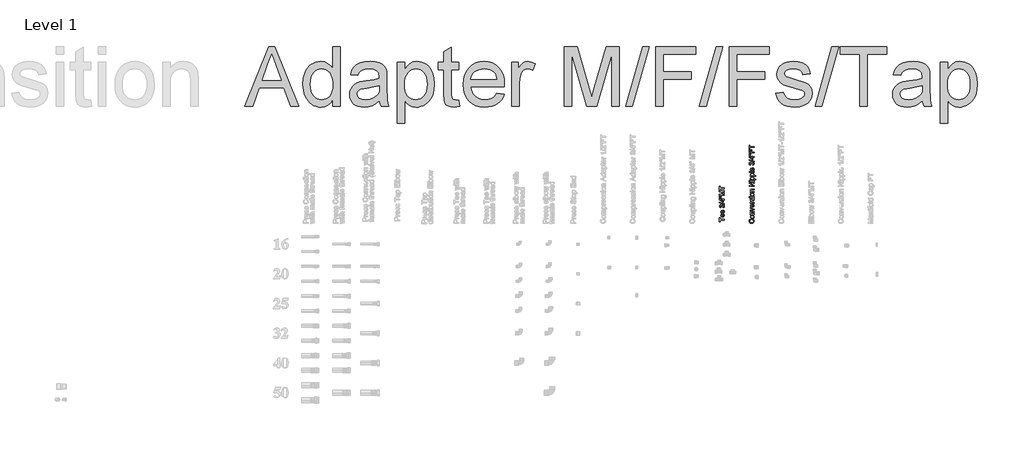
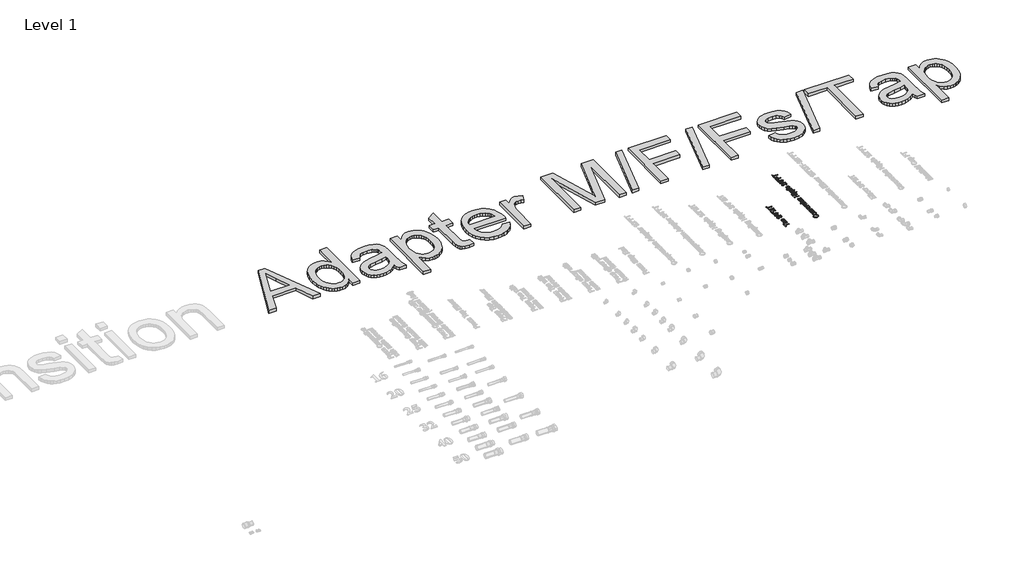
# One storey, part 55 of 57: 3 proxies.
"""IFC4 building model written with IfcOpenShell, lengths in millimetres."""

from ifc_helpers import new_model, si_unit, frame, origin, place, context, project, spatial, polyline, outline, extrude, element, save

model = new_model("IFC4")

# Units and contexts
model_context = context("Model", 3, world=origin())
ifc_project = project(units=[si_unit("LENGTHUNIT", "METRE", prefix="MILLI")], contexts=[model_context])

# Site, building, storey
site = spatial("IfcSite", under=ifc_project)
building = spatial("IfcBuilding", under=site)
storey = spatial("IfcBuildingStorey", under=building, Name="Level 1", Elevation=27.3876384)

# Proxies
placement = place(None, origin())
element("IfcBuildingElementProxy", 1, Name="50mm Arial", ObjectType="50mm Arial", at=placement, inside=storey, context=model_context, shape_type="SweptSolid", body=[
    extrude(outline(polyline([(33619.1417262, 30438.9887064), (33575.1920905, 30438.9887064), (33575.1920905, 30422.507593), (33568.9135711, 30422.507593), (33568.9135711, 30461.7483391), (33575.1920905, 30461.7483391), (33575.1920905, 30445.2672257), (33619.1417262, 30445.2672257), (33619.1417262, 30438.9887064)])), frame((0.0, 0.0, 27.3876384), z_axis=(0.0, 0.0, 1.0), x_axis=(1.0, 0.0, 0.0)), (0.0, 0.0, 1.0), 2.0),
    extrude(outline(polyline([(33608.1543173, 30493.8521746), (33608.9391322, 30500.0080666), (33617.0447988, 30494.2507134), (33619.9265411, 30483.5269532), (33614.9540028, 30470.4916679), (33601.0051438, 30465.6724137), (33586.5964323, 30470.5407188), (33581.4706099, 30483.171334), (33586.5841696, 30495.4401985), (33600.9683556, 30500.2042704), (33602.6606128, 30500.1674822), (33602.6606128, 30471.9509331), (33610.8153304, 30475.562308), (33613.6480217, 30483.6495806), (33612.3359093, 30489.8054726), (33608.1543173, 30493.8521746)]), holes=[polyline([(33596.3820934, 30471.9509331), (33596.3820934, 30493.925751), (33590.6921852, 30491.4118907), (33587.7491293, 30483.1468085), (33590.0974427, 30475.4151552), (33596.3820934, 30471.9509331)])]), frame((0.0, 0.0, 27.3876384), z_axis=(0.0, 0.0, 1.0), x_axis=(1.0, 0.0, 0.0)), (0.0, 0.0, 1.0), 2.0),
    extrude(outline(polyline([(33608.1543173, 30532.3081058), (33608.9391322, 30538.4639979), (33617.0447988, 30532.7066446), (33619.9265411, 30521.9828845), (33614.9540028, 30508.9475991), (33601.0051438, 30504.128345), (33586.5964323, 30508.99665), (33581.4706099, 30521.6272652), (33586.5841696, 30533.8961297), (33600.9683556, 30538.6602016), (33602.6606128, 30538.6234134), (33602.6606128, 30510.4068644), (33610.8153304, 30514.0182393), (33613.6480217, 30522.1055118), (33612.3359093, 30528.2614039), (33608.1543173, 30532.3081058)]), holes=[polyline([(33596.3820934, 30510.4068644), (33596.3820934, 30532.3816822), (33590.6921852, 30529.8678219), (33587.7491293, 30521.6027397), (33590.0974427, 30513.8710865), (33596.3820934, 30510.4068644)])]), frame((0.0, 0.0, 27.3876384), z_axis=(0.0, 0.0, 1.0), x_axis=(1.0, 0.0, 0.0)), (0.0, 0.0, 1.0), 2.0),
    extrude(outline(polyline([(33605.7998725, 30562.9894642), (33605.0150576, 30569.2679836), (33611.6246707, 30572.7322057), (33613.6480217, 30579.2130602), (33610.8643813, 30586.8404802), (33603.9727252, 30589.6731716), (33597.479608, 30586.8650057), (33594.9105654, 30579.728095), (33595.5972785, 30575.3257738), (33589.3187591, 30576.0247496), (33587.5897137, 30584.1549417), (33582.0469583, 30587.3187268), (33577.1357337, 30585.0255957), (33575.1920905, 30579.1149583), (33577.1541278, 30573.1307445), (33583.0402397, 30570.0527985), (33582.2554248, 30563.7742791), (33572.4084501, 30568.9123643), (33568.9135711, 30578.8942291), (33570.6364851, 30586.4664669), (33575.3453747, 30591.7639676), (33581.6790763, 30593.5972462), (33587.4670864, 30591.8559381), (33591.6241529, 30586.7055902), (33595.9161095, 30593.5481953), (33604.0830898, 30595.951691), (33615.3157534, 30591.1446996), (33619.9265411, 30578.992331), (33615.9902038, 30567.9803966), (33605.7998725, 30562.9894642)])), frame((0.0, 0.0, 27.3876384), z_axis=(0.0, 0.0, 1.0), x_axis=(1.0, 0.0, 0.0)), (0.0, 0.0, 1.0), 2.0),
    extrude(outline(polyline([(33619.1417262, 30598.3061357), (33568.9135711, 30612.4328043), (33568.9135711, 30618.0981871), (33619.1417262, 30603.9715185), (33619.1417262, 30598.3061357)])), frame((0.0, 0.0, 27.3876384), z_axis=(0.0, 0.0, 1.0), x_axis=(1.0, 0.0, 0.0)), (0.0, 0.0, 1.0), 2.0),
    extrude(outline(polyline([(33619.1417262, 30641.4709565), (33607.3695023, 30641.4709565), (33607.3695023, 30618.7113237), (33601.0909829, 30618.7113237), (33569.698386, 30643.0405863), (33569.698386, 30647.7494759), (33601.0909829, 30647.7494759), (33601.0909829, 30654.0279953), (33607.3695023, 30654.0279953), (33607.3695023, 30647.7494759), (33619.1417262, 30647.7494759), (33619.1417262, 30641.4709565)]), holes=[polyline([(33601.0909829, 30641.4709565), (33581.6913391, 30641.4709565), (33601.0909829, 30626.4368456), (33601.0909829, 30641.4709565)])]), frame((0.0, 0.0, 27.3876384), z_axis=(0.0, 0.0, 1.0), x_axis=(1.0, 0.0, 0.0)), (0.0, 0.0, 1.0), 2.0),
    extrude(outline(polyline([(33586.9643143, 30661.0545414), (33577.2644924, 30659.5216997), (33568.9135711, 30659.5216997), (33568.9135711, 30665.8002191), (33577.2644924, 30665.8002191), (33586.9643143, 30664.426793), (33586.9643143, 30661.0545414)])), frame((0.0, 0.0, 27.3876384), z_axis=(0.0, 0.0, 1.0), x_axis=(1.0, 0.0, 0.0)), (0.0, 0.0, 1.0), 2.0),
    extrude(outline(polyline([(33586.9643143, 30673.5747919), (33577.2644924, 30672.0787385), (33568.9135711, 30672.0787385), (33568.9135711, 30678.3572579), (33577.2644924, 30678.3572579), (33586.9643143, 30676.8857299), (33586.9643143, 30673.5747919)])), frame((0.0, 0.0, 27.3876384), z_axis=(0.0, 0.0, 1.0), x_axis=(1.0, 0.0, 0.0)), (0.0, 0.0, 1.0), 2.0),
    extrude(outline(polyline([(33619.1417262, 30686.990222), (33568.9135711, 30686.990222), (33568.9135711, 30697.79369), (33604.3160818, 30708.0698604), (33611.7105099, 30710.1422623), (33603.7029451, 30712.3863424), (33568.9135711, 30722.4908346), (33568.9135711, 30733.2943025), (33619.1417262, 30733.2943025), (33619.1417262, 30727.0157831), (33575.1920905, 30727.0157831), (33619.1417262, 30714.3974307), (33619.1417262, 30705.8870939), (33575.1920905, 30693.2687414), (33619.1417262, 30693.2687414), (33619.1417262, 30686.990222)])), frame((0.0, 0.0, 27.3876384), z_axis=(0.0, 0.0, 1.0), x_axis=(1.0, 0.0, 0.0)), (0.0, 0.0, 1.0), 2.0),
    extrude(outline(polyline([(33619.1417262, 30756.8387502), (33575.1920905, 30756.8387502), (33575.1920905, 30740.3576368), (33568.9135711, 30740.3576368), (33568.9135711, 30779.598383), (33575.1920905, 30779.598383), (33575.1920905, 30763.1172696), (33619.1417262, 30763.1172696), (33619.1417262, 30756.8387502)])), frame((0.0, 0.0, 27.3876384), z_axis=(0.0, 0.0, 1.0), x_axis=(1.0, 0.0, 0.0)), (0.0, 0.0, 1.0), 2.0),
])
element("IfcBuildingElementProxy", 2, Name="50mm Arial", ObjectType="50mm Arial", at=placement, inside=storey, context=model_context, shape_type="SweptSolid", body=[
    extrude(outline(polyline([(33901.2871867, 30442.127966), (33902.9058675, 30448.4064854), (33915.5671395, 30440.9630064), (33919.9265411, 30427.8173564), (33916.6278659, 30414.7514142), (33907.0751967, 30407.087206), (33893.6475039, 30404.4568497), (33879.9990819, 30407.4305625), (33871.1515199, 30415.8857171), (33868.1287562, 30427.9522465), (33872.0405681, 30440.5276794), (33883.0525025, 30447.6216705), (33884.5485559, 30441.3431511), (33876.8291654, 30436.1928032), (33874.4072756, 30427.7069918), (33877.0928141, 30417.8845426), (33884.3033012, 30412.3356558), (33893.6352412, 30410.7353691), (33904.4509718, 30412.6299614), (33911.361022, 30418.5283361), (33913.6480217, 30427.191957), (33910.5332875, 30436.7998085), (33901.2871867, 30442.127966)])), frame((0.0, 0.0, 27.3876384), z_axis=(0.0, 0.0, 1.0), x_axis=(1.0, 0.0, 0.0)), (0.0, 0.0, 1.0), 2.0),
    extrude(outline(polyline([(33900.6985755, 30454.6850048), (33891.8050283, 30456.0431025), (33885.5541, 30460.1173956), (33881.4706099, 30471.1783809), (33886.4431482, 30483.0425753), (33900.1835407, 30487.6472316), (33911.3548906, 30485.6116179), (33917.6763296, 30479.6825864), (33919.9265411, 30471.1783809), (33914.9723969, 30459.2406102), (33900.6985755, 30454.6850048)]), holes=[polyline([(33900.6863128, 30460.9635242), (33910.4167915, 30463.869792), (33913.6480217, 30471.1783809), (33910.3983974, 30478.4624444), (33900.490109, 30481.3687122), (33890.9803594, 30478.4440503), (33887.7491293, 30471.1783809), (33890.9680967, 30463.869792), (33900.6863128, 30460.9635242)])]), frame((0.0, 0.0, 27.3876384), z_axis=(0.0, 0.0, 1.0), x_axis=(1.0, 0.0, 0.0)), (0.0, 0.0, 1.0), 2.0),
    extrude(outline(polyline([(33919.1417262, 30494.7105659), (33882.2554248, 30494.7105659), (33882.2554248, 30500.9890853), (33887.4057727, 30500.9890853), (33882.9544006, 30505.7899453), (33881.4706099, 30512.3443762), (33882.6662264, 30518.2734077), (33885.805486, 30522.3201096), (33890.4224051, 30524.2024392), (33896.492458, 30524.533533), (33919.1417262, 30524.533533), (33919.1417262, 30518.2550136), (33897.3385866, 30518.2550136), (33891.7835685, 30517.5315123), (33888.8466439, 30514.9747325), (33887.7491293, 30510.6643817), (33890.2139386, 30503.8524335), (33899.570404, 30500.9890853), (33919.1417262, 30500.9890853), (33919.1417262, 30494.7105659)])), frame((0.0, 0.0, 27.3876384), z_axis=(0.0, 0.0, 1.0), x_axis=(1.0, 0.0, 0.0)), (0.0, 0.0, 1.0), 2.0),
    extrude(outline(polyline([(33919.1417262, 30542.2163942), (33882.2554248, 30529.2424225), (33882.2554248, 30535.8888239), (33904.35287, 30543.7492358), (33911.7840863, 30546.1159433), (33904.7698029, 30548.4335999), (33882.2554248, 30556.3430628), (33882.2554248, 30562.9894642), (33919.1417262, 30550.174908), (33919.1417262, 30542.2163942)])), frame((0.0, 0.0, 27.3876384), z_axis=(0.0, 0.0, 1.0), x_axis=(1.0, 0.0, 0.0)), (0.0, 0.0, 1.0), 2.0),
    extrude(outline(polyline([(33908.1543173, 30594.3084847), (33908.9391322, 30600.4643768), (33917.0447988, 30594.7070235), (33919.9265411, 30583.9832634), (33914.9540028, 30570.947978), (33901.0051438, 30566.1287239), (33886.5964323, 30570.997029), (33881.4706099, 30583.6276441), (33886.5841696, 30595.8965087), (33900.9683556, 30600.6605805), (33902.6606128, 30600.6237923), (33902.6606128, 30572.4072433), (33910.8153304, 30576.0186182), (33913.6480217, 30584.1058907), (33912.3359093, 30590.2617828), (33908.1543173, 30594.3084847)]), holes=[polyline([(33896.3820934, 30572.4072433), (33896.3820934, 30594.3820611), (33890.6921852, 30591.8682008), (33887.7491293, 30583.6031187), (33890.0974427, 30575.8714654), (33896.3820934, 30572.4072433)])]), frame((0.0, 0.0, 27.3876384), z_axis=(0.0, 0.0, 1.0), x_axis=(1.0, 0.0, 0.0)), (0.0, 0.0, 1.0), 2.0),
    extrude(outline(polyline([(33919.1417262, 30606.9390999), (33882.2554248, 30606.9390999), (33882.2554248, 30612.4328043), (33887.7123411, 30612.4328043), (33882.6846205, 30616.3323535), (33881.4706099, 30620.2564281), (33883.4081217, 30626.559473), (33889.0367162, 30624.4625456), (33887.7491293, 30620.0479616), (33888.9876653, 30616.4979004), (33892.4212306, 30614.2354261), (33899.754345, 30613.2176193), (33919.1417262, 30613.2176193), (33919.1417262, 30606.9390999)])), frame((0.0, 0.0, 27.3876384), z_axis=(0.0, 0.0, 1.0), x_axis=(1.0, 0.0, 0.0)), (0.0, 0.0, 1.0), 2.0),
    extrude(outline(polyline([(33908.1543173, 30628.1291028), (33907.3695023, 30634.4076222), (33912.0293409, 30637.31389), (33913.6480217, 30643.9725541), (33912.164231, 30650.3737008), (33908.6816148, 30652.4583654), (33905.8611862, 30650.361438), (33904.0708271, 30643.8989777), (33900.9990124, 30634.4444104), (33897.412163, 30630.3180007), (33892.3476542, 30628.9139177), (33887.6694215, 30630.0420892), (33884.0948348, 30633.1200352), (33882.2370307, 30637.1115549), (33881.4706099, 30642.5132888), (33882.7030146, 30650.1529716), (33886.038478, 30655.0090139), (33891.6732039, 30657.167255), (33892.4580188, 30650.8887356), (33888.9937967, 30648.5281594), (33887.7491293, 30643.0037981), (33888.9386144, 30636.9950589), (33891.7099921, 30635.1924371), (33893.5371393, 30635.9404638), (33894.9228282, 30638.2826459), (33896.2594661, 30643.6905112), (33899.2147848, 30652.9059552), (33902.5625109, 30657.1856491), (33908.0194272, 30658.7368848), (33914.0281664, 30656.9158689), (33918.3875681, 30651.6612878), (33919.9265411, 30643.8867149), (33916.9589597, 30632.9360942), (33908.1543173, 30628.1291028)])), frame((0.0, 0.0, 27.3876384), z_axis=(0.0, 0.0, 1.0), x_axis=(1.0, 0.0, 0.0)), (0.0, 0.0, 1.0), 2.0),
    extrude(outline(polyline([(33919.1417262, 30665.8002191), (33882.2554248, 30665.8002191), (33882.2554248, 30672.0787385), (33919.1417262, 30672.0787385), (33919.1417262, 30665.8002191)])), frame((0.0, 0.0, 27.3876384), z_axis=(0.0, 0.0, 1.0), x_axis=(1.0, 0.0, 0.0)), (0.0, 0.0, 1.0), 2.0),
    extrude(outline(polyline([(33875.1920905, 30665.8002191), (33868.9135711, 30665.8002191), (33868.9135711, 30672.0787385), (33875.1920905, 30672.0787385), (33875.1920905, 30665.8002191)])), frame((0.0, 0.0, 27.3876384), z_axis=(0.0, 0.0, 1.0), x_axis=(1.0, 0.0, 0.0)), (0.0, 0.0, 1.0), 2.0),
    extrude(outline(polyline([(33900.6985755, 30679.9268877), (33891.8050283, 30681.2849854), (33885.5541, 30685.3592785), (33881.4706099, 30696.4202638), (33886.4431482, 30708.2844582), (33900.1835407, 30712.8891145), (33911.3548906, 30710.8535008), (33917.6763296, 30704.9244693), (33919.9265411, 30696.4202638), (33914.9723969, 30684.4824931), (33900.6985755, 30679.9268877)]), holes=[polyline([(33900.6863128, 30686.2054071), (33910.4167915, 30689.1116749), (33913.6480217, 30696.4202638), (33910.3983974, 30703.7043274), (33900.490109, 30706.6105951), (33890.9803594, 30703.6859333), (33887.7491293, 30696.4202638), (33890.9680967, 30689.1116749), (33900.6863128, 30686.2054071)])]), frame((0.0, 0.0, 27.3876384), z_axis=(0.0, 0.0, 1.0), x_axis=(1.0, 0.0, 0.0)), (0.0, 0.0, 1.0), 2.0),
    extrude(outline(polyline([(33919.1417262, 30719.9524488), (33882.2554248, 30719.9524488), (33882.2554248, 30726.2309682), (33887.4057727, 30726.2309682), (33882.9544006, 30731.0318282), (33881.4706099, 30737.5862591), (33882.6662264, 30743.5152906), (33885.805486, 30747.5619925), (33890.4224051, 30749.4443221), (33896.492458, 30749.7754159), (33919.1417262, 30749.7754159), (33919.1417262, 30743.4968965), (33897.3385866, 30743.4968965), (33891.7835685, 30742.7733952), (33888.8466439, 30740.2166154), (33887.7491293, 30735.9062647), (33890.2139386, 30729.0943164), (33899.570404, 30726.2309682), (33919.1417262, 30726.2309682), (33919.1417262, 30719.9524488)])), frame((0.0, 0.0, 27.3876384), z_axis=(0.0, 0.0, 1.0), x_axis=(1.0, 0.0, 0.0)), (0.0, 0.0, 1.0), 2.0),
    extrude(outline(polyline([(33919.1417262, 30778.813568), (33868.9135711, 30778.813568), (33868.9135711, 30785.5335458), (33908.7061402, 30811.7757948), (33868.9135711, 30811.7757948), (33868.9135711, 30818.0543142), (33919.1417262, 30818.0543142), (33919.1417262, 30811.3343364), (33879.3368943, 30785.0920874), (33919.1417262, 30785.0920874), (33919.1417262, 30778.813568)])), frame((0.0, 0.0, 27.3876384), z_axis=(0.0, 0.0, 1.0), x_axis=(1.0, 0.0, 0.0)), (0.0, 0.0, 1.0), 2.0),
    extrude(outline(polyline([(33919.1417262, 30828.2569082), (33882.2554248, 30828.2569082), (33882.2554248, 30834.5354276), (33919.1417262, 30834.5354276), (33919.1417262, 30828.2569082)])), frame((0.0, 0.0, 27.3876384), z_axis=(0.0, 0.0, 1.0), x_axis=(1.0, 0.0, 0.0)), (0.0, 0.0, 1.0), 2.0),
    extrude(outline(polyline([(33875.1920905, 30828.2569082), (33868.9135711, 30828.2569082), (33868.9135711, 30834.5354276), (33875.1920905, 30834.5354276), (33875.1920905, 30828.2569082)])), frame((0.0, 0.0, 27.3876384), z_axis=(0.0, 0.0, 1.0), x_axis=(1.0, 0.0, 0.0)), (0.0, 0.0, 1.0), 2.0),
    extrude(outline(polyline([(33933.2683948, 30843.9532066), (33882.2554248, 30843.9532066), (33882.2554248, 30850.231726), (33888.4113168, 30850.231726), (33883.2057866, 30854.5727336), (33881.4706099, 30860.43432), (33883.898631, 30868.3928339), (33890.7412362, 30873.5922327), (33900.4165326, 30875.3458036), (33910.5884698, 30873.3653722), (33917.516914, 30867.6141503), (33919.9265411, 30859.6740306), (33918.3139917, 30854.2109829), (33914.2366329, 30850.231726), (33933.2683948, 30850.231726), (33933.2683948, 30843.9532066)]), holes=[polyline([(33900.9928811, 30850.231726), (33910.557813, 30852.9479214), (33913.6480217, 30859.5391405), (33910.4474484, 30866.2652497), (33900.5268972, 30869.0672842), (33890.9374399, 30866.3326947), (33887.7491293, 30859.7966579), (33891.139775, 30853.1318624), (33900.9928811, 30850.231726)])]), frame((0.0, 0.0, 27.3876384), z_axis=(0.0, 0.0, 1.0), x_axis=(1.0, 0.0, 0.0)), (0.0, 0.0, 1.0), 2.0),
    extrude(outline(polyline([(33933.2683948, 30882.4091379), (33882.2554248, 30882.4091379), (33882.2554248, 30888.6876573), (33888.4113168, 30888.6876573), (33883.2057866, 30893.0286648), (33881.4706099, 30898.8902513), (33883.898631, 30906.8487651), (33890.7412362, 30912.048164), (33900.4165326, 30913.8017348), (33910.5884698, 30911.8213034), (33917.516914, 30906.0700815), (33919.9265411, 30898.1299618), (33918.3139917, 30892.6669142), (33914.2366329, 30888.6876573), (33933.2683948, 30888.6876573), (33933.2683948, 30882.4091379)]), holes=[polyline([(33900.9928811, 30888.6876573), (33910.557813, 30891.4038527), (33913.6480217, 30897.9950717), (33910.4474484, 30904.7211809), (33900.5268972, 30907.5232154), (33890.9374399, 30904.7886259), (33887.7491293, 30898.2525891), (33891.139775, 30891.5877937), (33900.9928811, 30888.6876573)])]), frame((0.0, 0.0, 27.3876384), z_axis=(0.0, 0.0, 1.0), x_axis=(1.0, 0.0, 0.0)), (0.0, 0.0, 1.0), 2.0),
    extrude(outline(polyline([(33919.1417262, 30920.8650691), (33868.9135711, 30920.8650691), (33868.9135711, 30927.1435885), (33919.1417262, 30927.1435885), (33919.1417262, 30920.8650691)])), frame((0.0, 0.0, 27.3876384), z_axis=(0.0, 0.0, 1.0), x_axis=(1.0, 0.0, 0.0)), (0.0, 0.0, 1.0), 2.0),
    extrude(outline(polyline([(33908.1543173, 30962.3866836), (33908.9391322, 30968.5425757), (33917.0447988, 30962.7852225), (33919.9265411, 30952.0614623), (33914.9540028, 30939.0261769), (33901.0051438, 30934.2069228), (33886.5964323, 30939.0752279), (33881.4706099, 30951.705843), (33886.5841696, 30963.9747076), (33900.9683556, 30968.7387794), (33902.6606128, 30968.7019912), (33902.6606128, 30940.4854422), (33910.8153304, 30944.0968171), (33913.6480217, 30952.1840896), (33912.3359093, 30958.3399817), (33908.1543173, 30962.3866836)]), holes=[polyline([(33896.3820934, 30940.4854422), (33896.3820934, 30962.46026), (33890.6921852, 30959.9463997), (33887.7491293, 30951.6813176), (33890.0974427, 30943.9496643), (33896.3820934, 30940.4854422)])]), frame((0.0, 0.0, 27.3876384), z_axis=(0.0, 0.0, 1.0), x_axis=(1.0, 0.0, 0.0)), (0.0, 0.0, 1.0), 2.0),
    extrude(outline(polyline([(33905.7998725, 30993.068042), (33905.0150576, 30999.3465614), (33911.6246707, 31002.8107835), (33913.6480217, 31009.291638), (33910.8643813, 31016.919058), (33903.9727252, 31019.7517494), (33897.479608, 31016.9435835), (33894.9105654, 31009.8066728), (33895.5972785, 31005.4043516), (33889.3187591, 31006.1033274), (33887.5897137, 31014.2335195), (33882.0469583, 31017.3973046), (33877.1357337, 31015.1041735), (33875.1920905, 31009.1935361), (33877.1541278, 31003.2093224), (33883.0402397, 31000.1313763), (33882.2554248, 30993.8528569), (33872.4084501, 30998.9909421), (33868.9135711, 31008.9728069), (33870.6364851, 31016.5450447), (33875.3453747, 31021.8425454), (33881.6790763, 31023.675824), (33887.4670864, 31021.9345159), (33891.6241529, 31016.784168), (33895.9161095, 31023.6267731), (33904.0830898, 31026.0302688), (33915.3157534, 31021.2232774), (33919.9265411, 31009.0709088), (33915.9902038, 30998.0589744), (33905.7998725, 30993.068042)])), frame((0.0, 0.0, 27.3876384), z_axis=(0.0, 0.0, 1.0), x_axis=(1.0, 0.0, 0.0)), (0.0, 0.0, 1.0), 2.0),
    extrude(outline(polyline([(33919.1417262, 31028.3847136), (33868.9135711, 31042.5113822), (33868.9135711, 31048.1767649), (33919.1417262, 31034.0500963), (33919.1417262, 31028.3847136)])), frame((0.0, 0.0, 27.3876384), z_axis=(0.0, 0.0, 1.0), x_axis=(1.0, 0.0, 0.0)), (0.0, 0.0, 1.0), 2.0),
    extrude(outline(polyline([(33919.1417262, 31071.5495343), (33907.3695023, 31071.5495343), (33907.3695023, 31048.7899016), (33901.0909829, 31048.7899016), (33869.698386, 31073.1191642), (33869.698386, 31077.8280537), (33901.0909829, 31077.8280537), (33901.0909829, 31084.1065731), (33907.3695023, 31084.1065731), (33907.3695023, 31077.8280537), (33919.1417262, 31077.8280537), (33919.1417262, 31071.5495343)]), holes=[polyline([(33901.0909829, 31071.5495343), (33881.6913391, 31071.5495343), (33901.0909829, 31056.5154235), (33901.0909829, 31071.5495343)])]), frame((0.0, 0.0, 27.3876384), z_axis=(0.0, 0.0, 1.0), x_axis=(1.0, 0.0, 0.0)), (0.0, 0.0, 1.0), 2.0),
    extrude(outline(polyline([(33886.9643143, 31103.6533698), (33877.2644924, 31102.1573163), (33868.9135711, 31102.1573163), (33868.9135711, 31108.4358357), (33877.2644924, 31108.4358357), (33886.9643143, 31106.9643077), (33886.9643143, 31103.6533698)])), frame((0.0, 0.0, 27.3876384), z_axis=(0.0, 0.0, 1.0), x_axis=(1.0, 0.0, 0.0)), (0.0, 0.0, 1.0), 2.0),
    extrude(outline(polyline([(33886.9643143, 31091.1331192), (33877.2644924, 31089.6002776), (33868.9135711, 31089.6002776), (33868.9135711, 31095.8787969), (33877.2644924, 31095.8787969), (33886.9643143, 31094.5053708), (33886.9643143, 31091.1331192)])), frame((0.0, 0.0, 27.3876384), z_axis=(0.0, 0.0, 1.0), x_axis=(1.0, 0.0, 0.0)), (0.0, 0.0, 1.0), 2.0),
    extrude(outline(polyline([(33919.1417262, 31117.0687999), (33868.9135711, 31117.0687999), (33868.9135711, 31150.8158416), (33875.1920905, 31150.8158416), (33875.1920905, 31123.3473192), (33890.103574, 31123.3473192), (33890.103574, 31146.8917669), (33896.3820934, 31146.8917669), (33896.3820934, 31123.3473192), (33919.1417262, 31123.3473192), (33919.1417262, 31117.0687999)])), frame((0.0, 0.0, 27.3876384), z_axis=(0.0, 0.0, 1.0), x_axis=(1.0, 0.0, 0.0)), (0.0, 0.0, 1.0), 2.0),
    extrude(outline(polyline([(33919.1417262, 31172.0058445), (33875.1920905, 31172.0058445), (33875.1920905, 31155.5247311), (33868.9135711, 31155.5247311), (33868.9135711, 31194.7654772), (33875.1920905, 31194.7654772), (33875.1920905, 31178.2843639), (33919.1417262, 31178.2843639), (33919.1417262, 31172.0058445)])), frame((0.0, 0.0, 27.3876384), z_axis=(0.0, 0.0, 1.0), x_axis=(1.0, 0.0, 0.0)), (0.0, 0.0, 1.0), 2.0),
])
element("IfcBuildingElementProxy", 3, Name="600mm Arial", ObjectType="600mm Arial", at=placement, inside=storey, context=model_context, shape_type="SweptSolid", body=[
    extrude(outline(polyline([(28776.5509061, 31587.8685592), (29017.145731, 32190.6064201), (29081.3043509, 32190.6064201), (29321.8991758, 31587.8685592), (29242.289512, 31587.8685592), (29173.2748497, 31776.2241407), (28925.0280794, 31776.2241407), (28856.1605699, 31587.8685592), (28776.5509061, 31587.8685592)]), holes=[polyline([(28952.6928054, 31851.5663733), (29145.7572765, 31851.5663733), (29091.457894, 31999.749241), (29049.2250409, 32115.2641875), (29011.7010774, 32012.6986872), (28952.6928054, 31851.5663733)])]), frame((0.0, 0.0, 27.3876384), z_axis=(0.0, 0.0, 1.0), x_axis=(1.0, 0.0, 0.0)), (0.0, 0.0, 1.0), 30.0),
    extrude(outline(polyline([(29666.0895704, 31587.8685592), (29666.0895704, 31658.9433607), (29643.5476012, 31623.7278567), (29616.2415601, 31598.5739253), (29584.1714472, 31583.4815664), (29547.3372624, 31578.4507801), (29522.4684395, 31580.271796), (29498.6296862, 31585.7348436), (29475.8210025, 31594.839923), (29454.0423884, 31607.5870341), (29433.9744256, 31623.5944994), (29416.2976957, 31642.4806414), (29401.0121988, 31664.2454599), (29388.1179349, 31688.8889551), (29377.8816184, 31715.9420773), (29370.5699637, 31744.935777), (29364.72064, 31808.7449091), (29370.1101112, 31871.7630949), (29386.2785249, 31928.6744395), (29398.4002367, 31954.030706), (29413.207487, 31976.2415815), (29430.7002758, 31995.3070659), (29450.8786033, 32011.2271592), (29473.0296979, 32023.7811323), (29496.4407884, 32032.748256), (29521.1118747, 32038.1285301), (29547.0429568, 32039.9219549), (29583.9047327, 32034.790001), (29616.4990775, 32019.3941395), (29644.1270153, 31995.7945095), (29666.0895704, 31966.0512502), (29666.0895704, 32190.6064201), (29741.4318031, 32190.6064201), (29741.4318031, 31587.8685592), (29666.0895704, 31587.8685592)]), holes=[polyline([(29440.0628726, 31809.0392147), (29442.1873911, 31772.503934), (29448.5609467, 31740.8890751), (29459.1835393, 31714.1946378), (29474.055169, 31692.4206222), (29491.8146723, 31675.5210431), (29511.1008859, 31663.4499151), (29531.9138098, 31656.2072383), (29554.2534439, 31653.7930127), (29576.6988441, 31656.0968737), (29597.3876078, 31663.0084567), (29616.319735, 31674.5277617), (29633.4952257, 31690.6547886), (29647.7552515, 31711.5182963), (29657.9409843, 31737.2470433), (29664.0524239, 31767.8410298), (29666.0895704, 31803.3002556), (29664.0156357, 31842.1761854), (29657.7938315, 31875.5154912), (29647.4241577, 31903.318173), (29632.9066145, 31925.5842308), (29615.3540448, 31942.6447583), (29595.8792917, 31954.8308494), (29574.4823551, 31962.142504), (29551.1632352, 31964.5797223), (29528.3821426, 31962.2390731), (29507.5692187, 31955.2171255), (29488.7244635, 31943.5138795), (29471.847877, 31927.1293351), (29457.9419376, 31905.7048075), (29448.0091237, 31878.8816115), (29442.0494354, 31846.6597472), (29440.0628726, 31809.0392147)])]), frame((0.0, 0.0, 27.3876384), z_axis=(0.0, 0.0, 1.0), x_axis=(1.0, 0.0, 0.0)), (0.0, 0.0, 1.0), 30.0),
    extrude(outline(polyline([(30136.9785243, 31644.3752337), (30100.981271, 31613.5099343), (30063.91716, 31593.3132127), (30024.9400626, 31582.1663883), (29983.2038503, 31578.4507801), (29949.6576109, 31580.6856632), (29920.2408468, 31587.3903126), (29894.9535582, 31598.5647282), (29873.7957449, 31614.20891), (29857.0893038, 31633.3295767), (29845.1561316, 31654.9334469), (29837.9962283, 31679.0205205), (29835.6095938, 31705.5907976), (29839.2148374, 31736.823979), (29850.030568, 31765.1876809), (29866.7140165, 31789.4678925), (29887.9224135, 31808.4506035), (29912.8464187, 31822.7980013), (29940.6766916, 31833.1722736), (30005.8653812, 31844.503039), (30082.899871, 31856.4224157), (30136.5370659, 31870.4019315), (30136.9785243, 31887.1773505), (30131.7913881, 31920.8017648), (30125.307468, 31933.2545704), (30116.2299797, 31942.8011081), (30100.5398126, 31952.3292518), (30081.428343, 31959.1350687), (30032.941496, 31964.5797223), (29988.0598926, 31960.9560846), (29956.7163466, 31950.0851716), (29935.3424027, 31929.9804206), (29920.3696055, 31898.6552687), (29845.0273729, 31908.0730478), (29858.1055778, 31949.2758313), (29877.6217177, 31981.6494468), (29905.3968083, 32006.4079051), (29943.2518656, 32024.7652167), (29989.5498147, 32036.1327703), (30042.6535807, 32039.9219549), (30093.5868429, 32036.5742287), (30133.9618919, 32026.5310502), (30164.404127, 32011.4294943), (30185.5389476, 31992.9066359), (30199.5552516, 31970.0059817), (30208.6419369, 31941.7710386), (30212.3207569, 31875.846585), (30212.3207569, 31782.1102526), (30216.1467296, 31651.2178388), (30221.8121124, 31618.8626173), (30231.156315, 31587.8685592), (30155.8140824, 31587.8685592), (30143.747553, 31614.0617572), (30136.9785243, 31644.3752337)]), holes=[polyline([(30136.9785243, 31795.0596989), (30086.3579617, 31782.5149228), (30015.4303131, 31771.9567096), (29950.6095055, 31759.7430273), (29933.742116, 31751.392106), (29921.2525223, 31739.8773996), (29913.5270004, 31726.0818248), (29910.9518264, 31710.8882984), (29916.5620269, 31688.4842849), (29933.3926281, 31670.1269733), (29961.0757483, 31657.8765029), (29999.2435053, 31653.7930127), (30039.7105247, 31658.2995672), (30075.4686547, 31671.8192305), (30104.4577559, 31691.7400405), (30124.6176892, 31715.4500351), (30133.5572217, 31739.8773996), (30136.5370659, 31773.7225432), (30136.9785243, 31795.0596989)])]), frame((0.0, 0.0, 27.3876384), z_axis=(0.0, 0.0, 1.0), x_axis=(1.0, 0.0, 0.0)), (0.0, 0.0, 1.0), 30.0),
    extrude(outline(polyline([(30315.9163267, 31418.3485358), (30315.9163267, 32030.5041758), (30391.2585593, 32030.5041758), (30391.2585593, 31956.6334712), (30415.8330766, 31993.0721828), (30443.3506499, 32019.0998339), (30475.4299598, 32034.7164246), (30513.6896873, 32039.9219549), (30539.9656588, 32038.100939), (30564.6413437, 32032.6378914), (30587.7167418, 32023.532812), (30609.1918533, 32010.7857008), (30628.5976285, 31994.7276518), (30645.465018, 31975.6897585), (30659.7940217, 31953.6720211), (30671.5846397, 31928.6744395), (30687.3667773, 31873.1610465), (30692.6274898, 31812.5708818), (30686.6861956, 31748.1363504), (30679.2595778, 31718.471266), (30668.8623129, 31690.5076358), (30655.6369552, 31664.9766254), (30639.7260589, 31642.6094001), (30621.129624, 31623.4059599), (30599.8476506, 31607.3663049), (30576.9240038, 31594.7157628), (30553.4025487, 31585.6796613), (30529.2832854, 31580.2580004), (30504.5662139, 31578.4507801), (30469.930124, 31583.2884284), (30439.0096423, 31597.8013731), (30412.5405328, 31619.7087459), (30391.2585593, 31646.7296784), (30391.2585593, 31418.3485358), (30315.9163267, 31418.3485358)]), holes=[polyline([(30391.2585593, 31805.6547003), (30393.2957059, 31769.3447474), (30399.4071455, 31738.111566), (30409.5928783, 31711.9551562), (30423.8529041, 31690.8755178), (30441.0191977, 31674.6519219), (30459.9237337, 31663.063639), (30480.5665122, 31656.1106693), (30502.9475331, 31653.7930127), (30525.6504507, 31656.1934427), (30546.6703082, 31663.3947328), (30566.0071056, 31675.3968829), (30583.6608428, 31692.199893), (30598.3715241, 31714.0428865), (30608.8791536, 31741.1649866), (30615.1837313, 31773.5661933), (30617.2852572, 31811.2465067), (30615.234315, 31847.2437599), (30609.0814887, 31878.421759), (30598.8267781, 31904.7805039), (30584.4701832, 31926.3199948), (30567.2625029, 31943.0586255), (30548.4545359, 31955.0147904), (30528.0462822, 31962.1884893), (30506.0377418, 31964.5797223), (30484.0981793, 31962.036738), (30463.4554009, 31954.4077851), (30444.1094065, 31941.6928636), (30426.0601961, 31923.8919736), (30410.83448, 31901.2442383), (30399.9589685, 31873.9887809), (30393.4336616, 31842.1256016), (30391.2585593, 31805.6547003)])]), frame((0.0, 0.0, 27.3876384), z_axis=(0.0, 0.0, 1.0), x_axis=(1.0, 0.0, 0.0)), (0.0, 0.0, 1.0), 30.0),
    extrude(outline(polyline([(30937.4897458, 31650.702804), (30946.9075249, 31585.6612672), (30890.5480032, 31578.4507801), (30854.3852031, 31581.5777771), (30827.4194528, 31590.958768), (30808.3631655, 31605.4165304), (30795.928754, 31623.7738419), (30789.0861489, 31655.3013289), (30786.8052805, 31709.2696176), (30786.8052805, 31955.1619432), (30730.2986061, 31955.1619432), (30730.2986061, 32030.5041758), (30786.8052805, 32030.5041758), (30786.8052805, 32138.0728712), (30862.1475132, 32182.3658634), (30862.1475132, 32030.5041758), (30937.4897458, 32030.5041758), (30937.4897458, 31955.1619432), (30862.1475132, 31955.1619432), (30862.1475132, 31711.4769096), (30866.1206387, 31672.6285709), (30878.9965085, 31658.8697843), (30889.8674215, 31655.0622056), (30904.6746718, 31653.7930127), (30937.4897458, 31650.702804)])), frame((0.0, 0.0, 27.3876384), z_axis=(0.0, 0.0, 1.0), x_axis=(1.0, 0.0, 0.0)), (0.0, 0.0, 1.0), 30.0),
    extrude(outline(polyline([(31322.7357711, 31719.7174663), (31396.6064758, 31710.2996872), (31385.2803088, 31680.7127777), (31369.9902134, 31654.6391413), (31350.7361895, 31632.078778), (31327.5182371, 31613.0316877), (31300.5754794, 31597.9025406), (31270.1470399, 31587.096007), (31236.2329185, 31580.6120868), (31198.8331151, 31578.4507801), (31152.0845106, 31582.1801838), (31110.4310717, 31593.368395), (31073.8727984, 31612.0154137), (31042.4096908, 31638.1212397), (31017.1086066, 31670.9593063), (30999.0364036, 31709.8030465), (30988.1930818, 31754.6524602), (30984.5786412, 31805.5075475), (30988.22987, 31858.0870817), (30999.1835564, 31904.431016), (31017.4397004, 31944.5393506), (31042.998302, 31978.4120853), (31074.3786362, 32005.3226532), (31110.0999779, 32024.5444875), (31150.1623272, 32036.077588), (31194.565684, 32039.9219549), (31237.5388996, 32036.0867851), (31276.4010338, 32024.5812757), (31311.1520868, 32005.4054267), (31341.7920585, 31978.5592381), (31366.8034356, 31944.7600798), (31384.668705, 31904.7253216), (31395.3878666, 31858.4549637), (31398.9609205, 31805.9490059), (31398.5194621, 31785.6419198), (31059.9208738, 31785.6419198), (31064.2848739, 31755.5767637), (31072.9622905, 31729.2456099), (31085.9531235, 31706.6484584), (31103.2573728, 31687.7853091), (31123.9185454, 31672.9136794), (31146.9801479, 31662.2910868), (31172.4421805, 31655.9175313), (31200.3046431, 31653.7930127), (31240.4037806, 31657.7293501), (31274.1753478, 31669.5383621), (31301.6193446, 31689.9558129), (31322.7357711, 31719.7174663)]), holes=[polyline([(31059.9208738, 31860.9841524), (31323.6186879, 31860.9841524), (31313.4283566, 31900.7889843), (31304.6635681, 31916.4423632), (31293.4523643, 31929.2630507), (31272.9061549, 31944.7140945), (31249.5272541, 31955.7505544), (31223.3156619, 31962.3724303), (31194.2713784, 31964.5797223), (31167.7792762, 31962.8184872), (31143.485269, 31957.534782), (31121.3893566, 31948.7286068), (31101.4915392, 31936.3999614), (31084.7942952, 31921.119063), (31072.3001029, 31903.4561288), (31064.0089624, 31883.4111585), (31059.9208738, 31860.9841524)])]), frame((0.0, 0.0, 27.3876384), z_axis=(0.0, 0.0, 1.0), x_axis=(1.0, 0.0, 0.0)), (0.0, 0.0, 1.0), 30.0),
    extrude(outline(polyline([(31474.3031531, 31587.8685592), (31474.3031531, 32030.5041758), (31540.2276067, 32030.5041758), (31540.2276067, 31965.0211806), (31564.5813948, 32002.9866025), (31587.0221965, 32025.3538279), (31609.5365746, 32036.2799231), (31634.1110918, 32039.9219549), (31671.6350553, 32034.1094193), (31709.74763, 32016.6718128), (31684.5845016, 31949.1286785), (31658.0969979, 31960.7169613), (31631.6094943, 31964.5797223), (31609.1135103, 31960.8641141), (31589.0087592, 31949.7172896), (31572.7667691, 31931.9853775), (31561.859068, 31908.5145062), (31552.6988063, 31866.4288059), (31549.6453857, 31820.5171329), (31549.6453857, 31587.8685592), (31474.3031531, 31587.8685592)])), frame((0.0, 0.0, 27.3876384), z_axis=(0.0, 0.0, 1.0), x_axis=(1.0, 0.0, 0.0)), (0.0, 0.0, 1.0), 30.0),
    extrude(outline(polyline([(32001.6987814, 31587.8685592), (32001.6987814, 32190.6064201), (32131.3403965, 32190.6064201), (32254.6544413, 31765.7762921), (32279.5232642, 31677.0431548), (32306.4522262, 31773.133932), (32427.7061318, 32190.6064201), (32557.3477469, 32190.6064201), (32557.3477469, 31587.8685592), (32482.0055143, 31587.8685592), (32482.0055143, 32115.2641875), (32330.5852851, 31587.8685592), (32228.4612432, 31587.8685592), (32077.041014, 32115.2641875), (32077.041014, 31587.8685592), (32001.6987814, 31587.8685592)])), frame((0.0, 0.0, 27.3876384), z_axis=(0.0, 0.0, 1.0), x_axis=(1.0, 0.0, 0.0)), (0.0, 0.0, 1.0), 30.0),
    extrude(outline(polyline([(32623.2722005, 31587.8685592), (32792.7922238, 32190.6064201), (32860.7768166, 32190.6064201), (32691.2567932, 31587.8685592), (32623.2722005, 31587.8685592)])), frame((0.0, 0.0, 27.3876384), z_axis=(0.0, 0.0, 1.0), x_axis=(1.0, 0.0, 0.0)), (0.0, 0.0, 1.0), 30.0),
    extrude(outline(polyline([(32924.6411309, 31587.8685592), (32924.6411309, 32190.6064201), (33329.6056312, 32190.6064201), (33329.6056312, 32115.2641875), (32999.9833635, 32115.2641875), (32999.9833635, 31936.326385), (33282.5167358, 31936.326385), (33282.5167358, 31860.9841524), (32999.9833635, 31860.9841524), (32999.9833635, 31587.8685592), (32924.6411309, 31587.8685592)])), frame((0.0, 0.0, 27.3876384), z_axis=(0.0, 0.0, 1.0), x_axis=(1.0, 0.0, 0.0)), (0.0, 0.0, 1.0), 30.0),
    extrude(outline(polyline([(33367.2767475, 31587.8685592), (33536.7967709, 32190.6064201), (33604.7813636, 32190.6064201), (33435.2613402, 31587.8685592), (33367.2767475, 31587.8685592)])), frame((0.0, 0.0, 27.3876384), z_axis=(0.0, 0.0, 1.0), x_axis=(1.0, 0.0, 0.0)), (0.0, 0.0, 1.0), 30.0),
    extrude(outline(polyline([(33668.645678, 31587.8685592), (33668.645678, 32190.6064201), (34073.6101783, 32190.6064201), (34073.6101783, 32115.2641875), (33743.9879106, 32115.2641875), (33743.9879106, 31936.326385), (34026.5212829, 31936.326385), (34026.5212829, 31860.9841524), (33743.9879106, 31860.9841524), (33743.9879106, 31587.8685592), (33668.645678, 31587.8685592)])), frame((0.0, 0.0, 27.3876384), z_axis=(0.0, 0.0, 1.0), x_axis=(1.0, 0.0, 0.0)), (0.0, 0.0, 1.0), 30.0),
    extrude(outline(polyline([(34139.5346318, 31719.7174663), (34214.8768644, 31729.1352453), (34219.4294041, 31711.9551562), (34226.7594528, 31696.9087826), (34236.8670107, 31683.9961245), (34249.7520775, 31673.2171821), (34265.4514417, 31664.719108), (34284.0018913, 31658.6490551), (34329.6560469, 31653.7930127), (34374.7583795, 31658.2443849), (34392.2879566, 31663.8086), (34406.4698075, 31671.5985013), (34425.2317892, 31690.9490942), (34429.9222847, 31701.783219), (34431.4857832, 31713.3898959), (34429.9130876, 31723.5618331), (34425.195001, 31732.5933361), (34406.3226547, 31747.2350395), (34378.1061057, 31756.7999714), (34328.7731301, 31768.719348), (34260.0159852, 31788.6033699), (34215.3183228, 31805.5811239), (34186.6051331, 31824.1039824), (34165.8014062, 31848.6233174), (34153.1646597, 31877.5756304), (34148.9524109, 31909.397423), (34152.3369252, 31938.5888593), (34162.4904683, 31965.5362154), (34178.4933351, 31989.1726336), (34199.4258206, 32008.4312561), (34220.2295474, 32020.5529678), (34247.3240564, 32030.724905), (34278.6492083, 32037.6226924), (34312.1448639, 32039.9219549), (34361.1835339, 32036.2247408), (34403.8210571, 32025.1330987), (34438.1076591, 32007.7322803), (34462.0935652, 31985.1075376), (34477.9860674, 31955.5850075), (34487.9924576, 31917.4908269), (34412.650225, 31908.0730478), (34403.1404754, 31931.7830424), (34384.3233114, 31949.6437132), (34356.0147919, 31960.84572), (34318.0309759, 31964.5797223), (34274.7680532, 31961.0112669), (34245.9261048, 31950.3059008), (34229.7025088, 31934.854857), (34224.2946435, 31917.0493685), (34226.5387237, 31905.4610856), (34233.2709642, 31895.1236016), (34244.7856706, 31885.8897635), (34261.3771486, 31878.4953354), (34326.2715325, 31862.4556804), (34436.8568603, 31826.9918561), (34466.0666907, 31810.0324961), (34488.2131868, 31786.8191422), (34502.1743085, 31757.278218), (34506.8280158, 31721.336147), (34501.3649681, 31684.1800655), (34484.9758253, 31649.231276), (34458.2859865, 31619.2304993), (34421.9208513, 31596.9184563), (34377.9957411, 31583.0676992), (34328.6259773, 31578.4507801), (34288.0761844, 31580.6764662), (34252.6583453, 31587.3535244), (34222.3724601, 31598.4819548), (34197.2185286, 31614.0617572), (34176.6723192, 31634.0193555), (34160.2095999, 31658.2811731), (34147.8303708, 31686.84721), (34139.5346318, 31719.7174663)])), frame((0.0, 0.0, 27.3876384), z_axis=(0.0, 0.0, 1.0), x_axis=(1.0, 0.0, 0.0)), (0.0, 0.0, 1.0), 30.0),
    extrude(outline(polyline([(34535.081353, 31587.8685592), (34704.6013764, 32190.6064201), (34772.5859691, 32190.6064201), (34603.0659457, 31587.8685592), (34535.081353, 31587.8685592)])), frame((0.0, 0.0, 27.3876384), z_axis=(0.0, 0.0, 1.0), x_axis=(1.0, 0.0, 0.0)), (0.0, 0.0, 1.0), 30.0),
    extrude(outline(polyline([(34987.1347487, 31587.8685592), (34987.1347487, 32115.2641875), (34789.3613881, 32115.2641875), (34789.3613881, 32190.6064201), (35260.2503419, 32190.6064201), (35260.2503419, 32115.2641875), (35062.4769813, 32115.2641875), (35062.4769813, 31587.8685592), (34987.1347487, 31587.8685592)])), frame((0.0, 0.0, 27.3876384), z_axis=(0.0, 0.0, 1.0), x_axis=(1.0, 0.0, 0.0)), (0.0, 0.0, 1.0), 30.0),
    extrude(outline(polyline([(35618.1259468, 31644.3752337), (35582.1286936, 31613.5099343), (35545.0645826, 31593.3132127), (35506.0874852, 31582.1663883), (35464.3512728, 31578.4507801), (35430.8050334, 31580.6856632), (35401.3882693, 31587.3903126), (35376.1009807, 31598.5647282), (35354.9431675, 31614.20891), (35338.2367264, 31633.3295767), (35326.3035541, 31654.9334469), (35319.1436508, 31679.0205205), (35316.7570164, 31705.5907976), (35320.3622599, 31736.823979), (35331.1779906, 31765.1876809), (35347.8614391, 31789.4678925), (35369.0698361, 31808.4506035), (35393.9938412, 31822.7980013), (35421.8241142, 31833.1722736), (35487.0128037, 31844.503039), (35564.0472935, 31856.4224157), (35617.6844884, 31870.4019315), (35618.1259468, 31887.1773505), (35612.9388107, 31920.8017648), (35606.4548905, 31933.2545704), (35597.3774023, 31942.8011081), (35581.6872352, 31952.3292518), (35562.5757655, 31959.1350687), (35514.0889186, 31964.5797223), (35469.2073152, 31960.9560846), (35437.8637692, 31950.0851716), (35416.4898253, 31929.9804206), (35401.517028, 31898.6552687), (35326.1747954, 31908.0730478), (35339.2530004, 31949.2758313), (35358.7691402, 31981.6494468), (35386.5442308, 32006.4079051), (35424.3992881, 32024.7652167), (35470.6972372, 32036.1327703), (35523.8010032, 32039.9219549), (35574.7342655, 32036.5742287), (35615.1093144, 32026.5310502), (35645.5515495, 32011.4294943), (35666.6863702, 31992.9066359), (35680.7026742, 31970.0059817), (35689.7893595, 31941.7710386), (35693.4681794, 31875.846585), (35693.4681794, 31782.1102526), (35697.2941522, 31651.2178388), (35702.9595349, 31618.8626173), (35712.3037376, 31587.8685592), (35636.961505, 31587.8685592), (35624.8949755, 31614.0617572), (35618.1259468, 31644.3752337)]), holes=[polyline([(35618.1259468, 31795.0596989), (35567.5053843, 31782.5149228), (35496.5777356, 31771.9567096), (35431.7569281, 31759.7430273), (35414.8895386, 31751.392106), (35402.3999448, 31739.8773996), (35394.6744229, 31726.0818248), (35392.099249, 31710.8882984), (35397.7094494, 31688.4842849), (35414.5400507, 31670.1269733), (35442.2231708, 31657.8765029), (35480.3909278, 31653.7930127), (35520.8579473, 31658.2995672), (35556.6160772, 31671.8192305), (35585.6051784, 31691.7400405), (35605.7651118, 31715.4500351), (35614.7046443, 31739.8773996), (35617.6844884, 31773.7225432), (35618.1259468, 31795.0596989)])]), frame((0.0, 0.0, 27.3876384), z_axis=(0.0, 0.0, 1.0), x_axis=(1.0, 0.0, 0.0)), (0.0, 0.0, 1.0), 30.0),
    extrude(outline(polyline([(35797.0637493, 31418.3485358), (35797.0637493, 32030.5041758), (35872.4059819, 32030.5041758), (35872.4059819, 31956.6334712), (35896.9804992, 31993.0721828), (35924.4980724, 32019.0998339), (35956.5773824, 32034.7164246), (35994.8371099, 32039.9219549), (36021.1130814, 32038.100939), (36045.7887662, 32032.6378914), (36068.8641643, 32023.532812), (36090.3392758, 32010.7857008), (36109.7450511, 31994.7276518), (36126.6124405, 31975.6897585), (36140.9414443, 31953.6720211), (36152.7320622, 31928.6744395), (36168.5141998, 31873.1610465), (36173.7749123, 31812.5708818), (36167.8336181, 31748.1363504), (36160.4070003, 31718.471266), (36150.0097354, 31690.5076358), (36136.7843777, 31664.9766254), (36120.8734814, 31642.6094001), (36102.2770466, 31623.4059599), (36080.9950731, 31607.3663049), (36058.0714263, 31594.7157628), (36034.5499712, 31585.6796613), (36010.4307079, 31580.2580004), (35985.7136364, 31578.4507801), (35951.0775465, 31583.2884284), (35920.1570648, 31597.8013731), (35893.6879553, 31619.7087459), (35872.4059819, 31646.7296784), (35872.4059819, 31418.3485358), (35797.0637493, 31418.3485358)]), holes=[polyline([(35872.4059819, 31805.6547003), (35874.4431284, 31769.3447474), (35880.5545681, 31738.111566), (35890.7403008, 31711.9551562), (35905.0003266, 31690.8755178), (35922.1666202, 31674.6519219), (35941.0711563, 31663.063639), (35961.7139347, 31656.1106693), (35984.0949556, 31653.7930127), (36006.7978732, 31656.1934427), (36027.8177307, 31663.3947328), (36047.1545281, 31675.3968829), (36064.8082654, 31692.199893), (36079.5189466, 31714.0428865), (36090.0265761, 31741.1649866), (36096.3311538, 31773.5661933), (36098.4326797, 31811.2465067), (36096.3817376, 31847.2437599), (36090.2289112, 31878.421759), (36079.9742006, 31904.7805039), (36065.6176057, 31926.3199948), (36048.4099254, 31943.0586255), (36029.6019584, 31955.0147904), (36009.1937047, 31962.1884893), (35987.1851644, 31964.5797223), (35965.2456019, 31962.036738), (35944.6028234, 31954.4077851), (35925.256829, 31941.6928636), (35907.2076186, 31923.8919736), (35891.9819025, 31901.2442383), (35881.1063911, 31873.9887809), (35874.5810842, 31842.1256016), (35872.4059819, 31805.6547003)])]), frame((0.0, 0.0, 27.3876384), z_axis=(0.0, 0.0, 1.0), x_axis=(1.0, 0.0, 0.0)), (0.0, 0.0, 1.0), 30.0),
])

save(model, "model.ifc")
